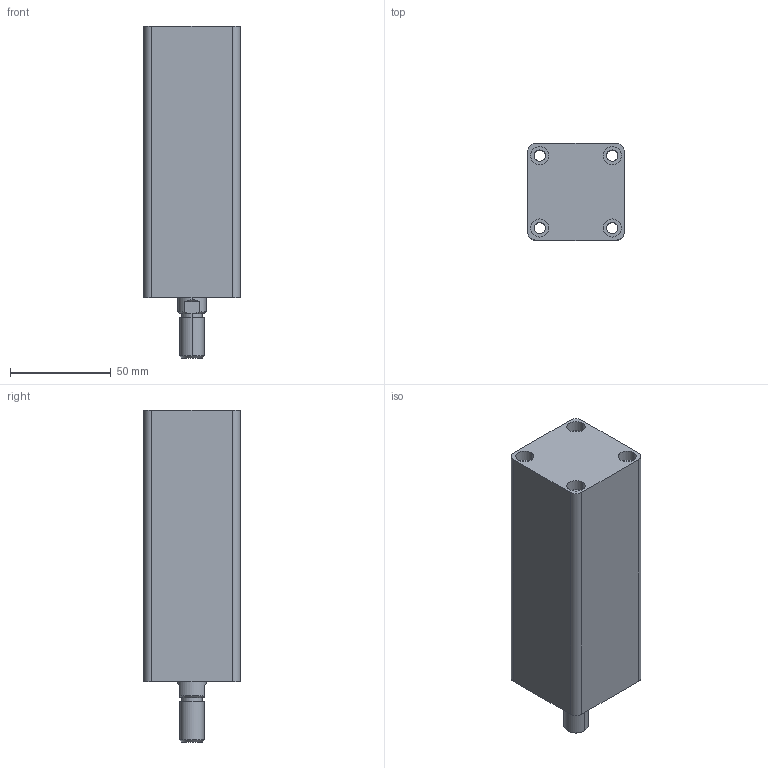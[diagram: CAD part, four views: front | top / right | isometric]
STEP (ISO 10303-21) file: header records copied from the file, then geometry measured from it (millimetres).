
FILE_DESCRIPTION (( 'STEP AP203' ), '1' );
FILE_NAME ('HTB-SD25-90W.STEP', '2019-10-07T06:20:57', ( '微软用户' ), ( '微软中国' ), 'SwSTEP 2.0', 'SolidWorks 2012', '' );
FILE_SCHEMA (( 'CONFIG_CONTROL_DESIGN' ));
Length unit declared in the file: millimetre
Products named in the file (3): HTB-SD25-90掛极; HTB-SD25-90W; HTB-SD25-90W活塞杆
Assembly tree (2 placements, depth 2):
  HTB-SD25-90W
    HTB-SD25-90掛极
    HTB-SD25-90W活塞杆
Bounding box: 48 x 48 x 165 mm (x, y, z)
Volume: 266395.8 mm3; surface area: 57924.4 mm2
Topology: 2 solids, 2 shells, 87 faces, 188 edges, 122 vertices
Faces by surface type: cylinder 44, plane 29, cone 8, torus 6
Entity records: 2759 total; most frequent: DIRECTION 476, CARTESIAN_POINT 446, ORIENTED_EDGE 376, AXIS2_PLACEMENT_3D 204, EDGE_CURVE 188, VERTEX_POINT 122, EDGE_LOOP 112, CIRCLE 112
